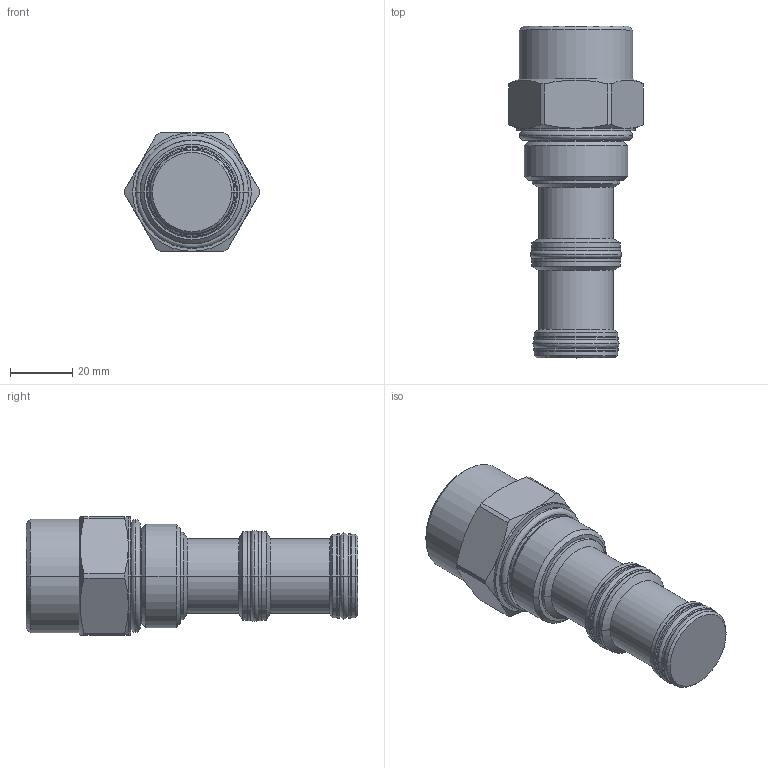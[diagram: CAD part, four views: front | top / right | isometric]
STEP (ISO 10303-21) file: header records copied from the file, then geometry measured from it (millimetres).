
FILE_DESCRIPTION((''),'2;1');
FILE_NAME('5425100_SW0002','2009-02-03T',('jcs'),(''),'PRO/ENGINEER BY PARAMETRIC TECHNOLOGY CORPORATION, 2008010','PRO/ENGINEER BY PARAMETRIC TECHNOLOGY CORPORATION, 2008010','');
FILE_SCHEMA(('CONFIG_CONTROL_DESIGN'));
Length unit declared in the file: inch
Products named in the file (1): 5425100_SW0002
Bounding box: 43.23 x 106.55 x 38.1 mm (x, y, z)
Volume: 80463.7 mm3; surface area: 17684.8 mm2
Topology: 8 solids, 8 shells, 144 faces, 300 edges, 168 vertices
Faces by surface type: cylinder 48, cone 34, revolution 24, torus 20, plane 18
Entity records: 4270 total; most frequent: CARTESIAN_POINT 1120, DIRECTION 698, ORIENTED_EDGE 600, EDGE_CURVE 300, AXIS2_PLACEMENT_3D 296, CIRCLE 176, VERTEX_POINT 168, EDGE_LOOP 154
